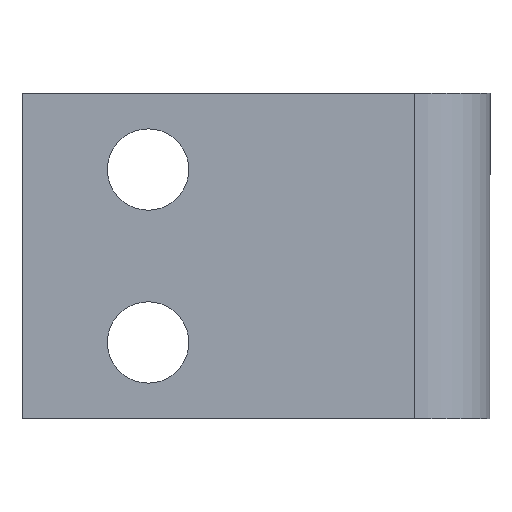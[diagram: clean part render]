
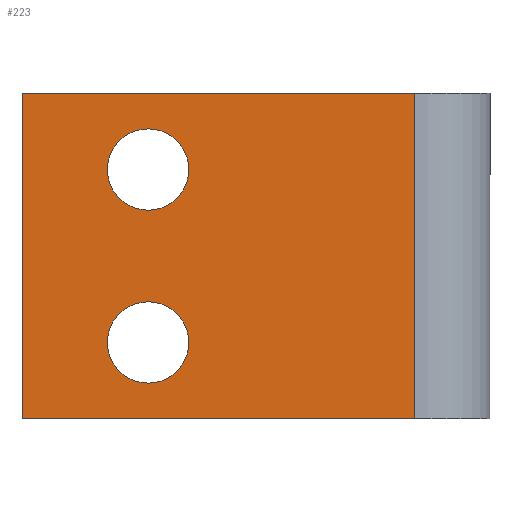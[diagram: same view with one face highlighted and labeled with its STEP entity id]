
A CAD part, front view. The second image highlights one B-rep face of the part: STEP entity #223.
In plain terms, the highlighted planar face has unit normal (0, -1, 0).
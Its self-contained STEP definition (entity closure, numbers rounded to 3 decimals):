
#1 = DIRECTION ( 'NONE',  ( 1., 0., 0. ) ) ;
#28 = DIRECTION ( 'NONE',  ( 0., 0., 1. ) ) ;
#32 = AXIS2_PLACEMENT_3D ( 'NONE', #179, #468, #613 ) ;
#36 = CARTESIAN_POINT ( 'NONE',  ( 0., 0., 0. ) ) ;
#43 = ORIENTED_EDGE ( 'NONE', *, *, #431, .T. ) ;
#47 = DIRECTION ( 'NONE',  ( 0., 1., 0. ) ) ;
#67 = LINE ( 'NONE', #164, #298 ) ;
#85 = CARTESIAN_POINT ( 'NONE',  ( 19.3, 0., 16. ) ) ;
#89 = ORIENTED_EDGE ( 'NONE', *, *, #107, .T. ) ;
#90 = VERTEX_POINT ( 'NONE', #586 ) ;
#107 = EDGE_CURVE ( 'NONE', #500, #375, #359, .T. ) ;
#110 = AXIS2_PLACEMENT_3D ( 'NONE', #421, #610, #134 ) ;
#134 = DIRECTION ( 'NONE',  ( 0., 0., 1. ) ) ;
#136 = ORIENTED_EDGE ( 'NONE', *, *, #299, .T. ) ;
#140 = CIRCLE ( 'NONE', #110, 2. ) ;
#157 = ORIENTED_EDGE ( 'NONE', *, *, #276, .T. ) ;
#160 = DIRECTION ( 'NONE',  ( 0., 0., 1. ) ) ;
#164 = CARTESIAN_POINT ( 'NONE',  ( 19.3, 0., 16. ) ) ;
#173 = CARTESIAN_POINT ( 'NONE',  ( 6.2, 0., 14.25 ) ) ;
#178 = DIRECTION ( 'NONE',  ( 1., 0., 0. ) ) ;
#179 = CARTESIAN_POINT ( 'NONE',  ( 6.2, 0., 3.75 ) ) ;
#183 = FACE_BOUND ( 'NONE', #234, .T. ) ;
#188 = EDGE_CURVE ( 'NONE', #384, #413, #562, .T. ) ;
#190 = CARTESIAN_POINT ( 'NONE',  ( 0., 0., 16. ) ) ;
#223 = ADVANCED_FACE ( 'NONE', ( #183, #560, #513 ), #518, .F. ) ;
#224 = AXIS2_PLACEMENT_3D ( 'NONE', #190, #47, #616 ) ;
#226 = ORIENTED_EDGE ( 'NONE', *, *, #592, .F. ) ;
#234 = EDGE_LOOP ( 'NONE', ( #43, #89 ) ) ;
#247 = DIRECTION ( 'NONE',  ( 0., 0., -1. ) ) ;
#268 = ORIENTED_EDGE ( 'NONE', *, *, #559, .T. ) ;
#276 = EDGE_CURVE ( 'NONE', #280, #335, #379, .T. ) ;
#280 = VERTEX_POINT ( 'NONE', #282 ) ;
#282 = CARTESIAN_POINT ( 'NONE',  ( 6.2, 0., 1.75 ) ) ;
#294 = CARTESIAN_POINT ( 'NONE',  ( 6.2, 0., 12.25 ) ) ;
#298 = VECTOR ( 'NONE', #404, 1000. ) ;
#299 = EDGE_CURVE ( 'NONE', #335, #280, #140, .T. ) ;
#305 = DIRECTION ( 'NONE',  ( 0., 1., 0. ) ) ;
#306 = VERTEX_POINT ( 'NONE', #85 ) ;
#317 = EDGE_CURVE ( 'NONE', #90, #306, #514, .T. ) ;
#324 = ORIENTED_EDGE ( 'NONE', *, *, #317, .F. ) ;
#329 = VECTOR ( 'NONE', #178, 1000. ) ;
#334 = LINE ( 'NONE', #531, #568 ) ;
#335 = VERTEX_POINT ( 'NONE', #604 ) ;
#359 = CIRCLE ( 'NONE', #389, 2. ) ;
#360 = CARTESIAN_POINT ( 'NONE',  ( 19.3, 0., 0. ) ) ;
#371 = CARTESIAN_POINT ( 'NONE',  ( 0., 0., 0. ) ) ;
#375 = VERTEX_POINT ( 'NONE', #173 ) ;
#379 = CIRCLE ( 'NONE', #32, 2. ) ;
#384 = VERTEX_POINT ( 'NONE', #36 ) ;
#389 = AXIS2_PLACEMENT_3D ( 'NONE', #294, #305, #160 ) ;
#404 = DIRECTION ( 'NONE',  ( 0., 0., -1. ) ) ;
#413 = VERTEX_POINT ( 'NONE', #360 ) ;
#421 = CARTESIAN_POINT ( 'NONE',  ( 6.2, 0., 3.75 ) ) ;
#422 = DIRECTION ( 'NONE',  ( 0., 1., 0. ) ) ;
#431 = EDGE_CURVE ( 'NONE', #375, #500, #515, .T. ) ;
#458 = AXIS2_PLACEMENT_3D ( 'NONE', #459, #422, #28 ) ;
#459 = CARTESIAN_POINT ( 'NONE',  ( 6.2, 0., 12.25 ) ) ;
#461 = ORIENTED_EDGE ( 'NONE', *, *, #188, .T. ) ;
#468 = DIRECTION ( 'NONE',  ( 0., 1., 0. ) ) ;
#500 = VERTEX_POINT ( 'NONE', #576 ) ;
#503 = VECTOR ( 'NONE', #1, 1000. ) ;
#510 = CARTESIAN_POINT ( 'NONE',  ( 0., 0., 16. ) ) ;
#511 = EDGE_LOOP ( 'NONE', ( #136, #157 ) ) ;
#513 = FACE_OUTER_BOUND ( 'NONE', #618, .T. ) ;
#514 = LINE ( 'NONE', #510, #329 ) ;
#515 = CIRCLE ( 'NONE', #458, 2. ) ;
#518 = PLANE ( 'NONE',  #224 ) ;
#531 = CARTESIAN_POINT ( 'NONE',  ( 0., 0., 16. ) ) ;
#559 = EDGE_CURVE ( 'NONE', #90, #384, #334, .T. ) ;
#560 = FACE_BOUND ( 'NONE', #511, .T. ) ;
#562 = LINE ( 'NONE', #371, #503 ) ;
#568 = VECTOR ( 'NONE', #247, 1000. ) ;
#576 = CARTESIAN_POINT ( 'NONE',  ( 6.2, 0., 10.25 ) ) ;
#586 = CARTESIAN_POINT ( 'NONE',  ( 0., 0., 16. ) ) ;
#592 = EDGE_CURVE ( 'NONE', #306, #413, #67, .T. ) ;
#604 = CARTESIAN_POINT ( 'NONE',  ( 6.2, 0., 5.75 ) ) ;
#610 = DIRECTION ( 'NONE',  ( 0., 1., 0. ) ) ;
#613 = DIRECTION ( 'NONE',  ( 0., 0., 1. ) ) ;
#616 = DIRECTION ( 'NONE',  ( 0., 0., 1. ) ) ;
#618 = EDGE_LOOP ( 'NONE', ( #461, #226, #324, #268 ) ) ;
